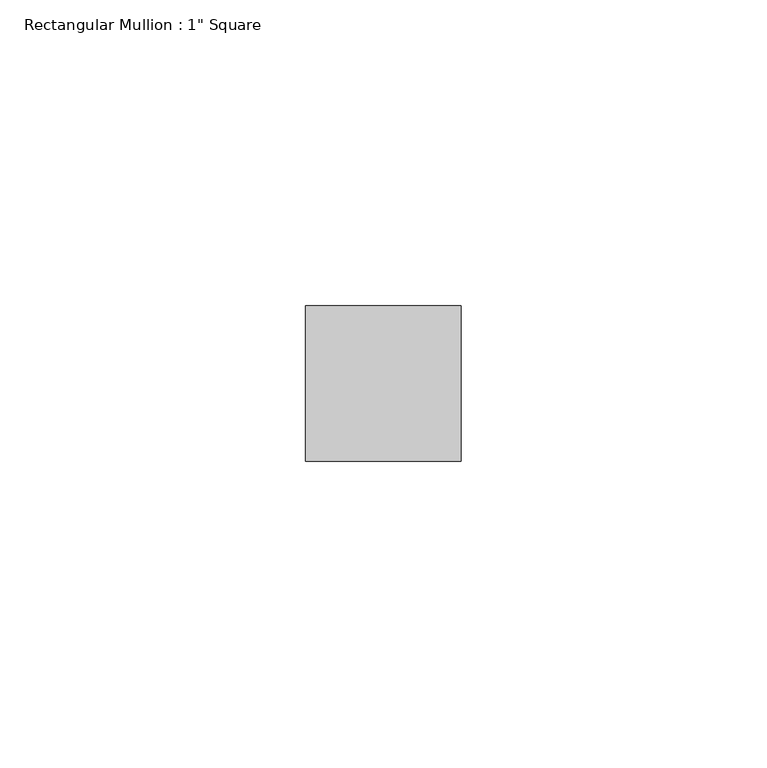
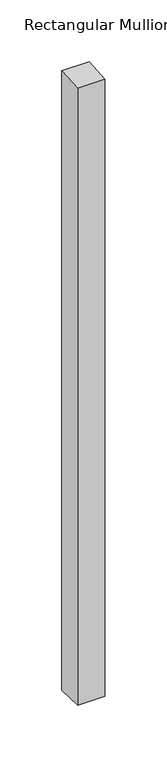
"""IFC4 building model written with IfcOpenShell, lengths in millimetres: member geometry."""

from ifc_helpers import new_model, si_unit, frame, origin, place, context, project, spatial, polyline, outline, extrude, source, transform, mapped, element, save


def member_d0a40a1c(model_context):
    return source(origin(), model_context, "Body", "SweptSolid", [
        extrude(outline(polyline([(-12.7, -0.7587411), (12.7, 0.7587411), (12.7, -610.1286454), (-12.7, -609.0713546), (-12.7, -0.7587411)])), frame((-12.7, 0.0, 0.0), z_axis=(1.0, 0.0, 0.0), x_axis=(0.0, 1.0, 0.0)), (0.0, 0.0, 1.0), 25.4),
    ])


if __name__ == "__main__":
    model = new_model("IFC4")
    model_context = context("Model", 3, world=origin())
    ifc_project = project(units=[si_unit("LENGTHUNIT", "METRE", prefix="MILLI")], contexts=[model_context])
    site = spatial("IfcSite", under=ifc_project)
    building = spatial("IfcBuilding", under=site)
    placement = place(None, origin())
    member_shape = member_d0a40a1c(model_context)
    element("IfcMember", 1, ObjectType="Rectangular Mullion : 1\" Square", at=placement, inside=building, context=model_context, shape_type="MappedRepresentation", body=[
        mapped(member_shape, transform((0.0, 0.0, 0.0), x_axis=(1.0, 0.0, 0.0), y_axis=(0.0, 1.0, 0.0), z_axis=(0.0, 0.0, 1.0))),
    ])
    save(model, "model.ifc")
